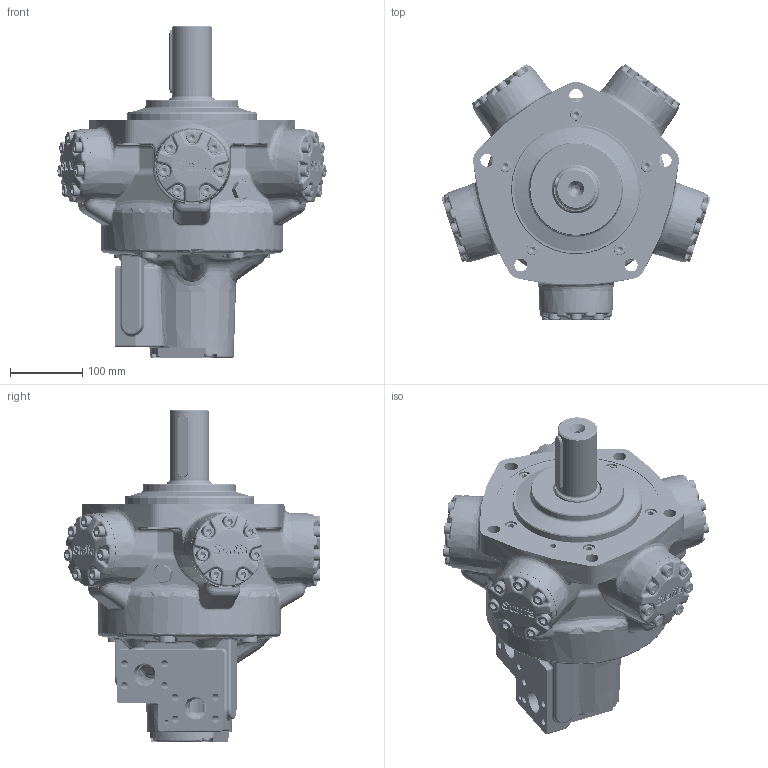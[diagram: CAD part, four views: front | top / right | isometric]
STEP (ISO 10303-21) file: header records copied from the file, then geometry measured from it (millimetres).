
FILE_DESCRIPTION(/* description */ (''),/* implementation_level */ '2;1');
FILE_NAME(/* name */ 'J:\3D Step files\Approved for WEB\Staffa\HMB030 P FM3 50.stp',/* time_stamp */ '2014-03-04T10:30:08+00:00',/* author */ ('mnorman'),/* organization */ (''),/* preprocessor_version */ 'ST-DEVELOPER v15.2',/* originating_system */ 'Autodesk Inventor 2014',/* authorisation */ '');
FILE_SCHEMA (('AUTOMOTIVE_DESIGN { 1 0 10303 214 3 1 1 }'));
Products named in the file (1): Part1
Bounding box: 373.47 x 355.31 x 460.76 mm (x, y, z)
Volume: 10752747.3 mm3; surface area: 1023628.1 mm2
Topology: 2 solids, 97 shells, 4876 faces, 11544 edges, 6850 vertices
Faces by surface type: bspline 1826, plane 1163, cylinder 1050, torus 368, cone 328, sphere 141
Full cylindrical faces by diameter (mm): 6.2 x1, 6.35 x1, 7.938 x5, 8.382 x42, 8.731 x4, 10 x40, 10.109 x8, 10.5 x35, 10.8 x5, 11.328 x1, 11.913 x4, 13.614 x1, 14.656 x2, 14.961 x5, 15.875 x5, 16 x40, 16.272 x5, 16.5 x35, 17 x5, 17.78 x1, 18 x4, 18.5 x1, 23.825 x5, 25.4 x5, 28.575 x5, 28.677 x5, 31.75 x5, 38.176 x5, 44 x5, 51.918 x5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
Entity records: 223790 total; most frequent: CARTESIAN_POINT 125108, ORIENTED_EDGE 20734, DIRECTION 15543, EDGE_CURVE 10367, VERTEX_POINT 6483, AXIS2_PLACEMENT_3D 6427, EDGE_LOOP 5808, ADVANCED_FACE 4876
